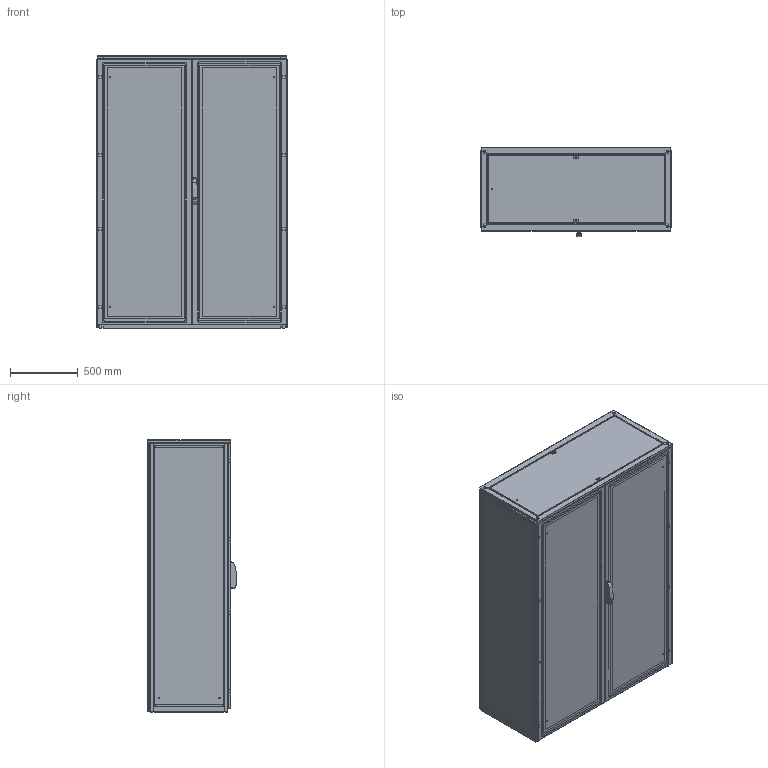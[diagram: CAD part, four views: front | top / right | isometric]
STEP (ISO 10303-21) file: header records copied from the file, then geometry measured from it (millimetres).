
FILE_DESCRIPTION(/* description */ ('STEP AP214'),/* implementation_level */ '2;1');
FILE_NAME(/* name */ 'ENUX142006PR -LOD350',/* time_stamp */ '2025-10-06T10:07:59+02:00',/* author */ ('License CC BY-ND 4.0'),/* organization */ ('CADENAS'),/* preprocessor_version */ 'ST-DEVELOPER v19.3',/* originating_system */ 'PARTsolutions',/* authorisation */ ' ');
FILE_SCHEMA (('AP242_MANAGED_MODEL_BASED_3D_ENGINEERING_MIM_LF { 1 0 10303 442 3 1 4 }','AUTOMOTIVE_DESIGN {1 0 10303 214 3 1 1}'));
Length unit declared in the file: millimetre
Products named in the file (11): ENUX142006PR  -LOD350; ENUX142006PR  -LOD3501; ENUX142006PR  -LOD3507; ENUX142006PR  -LOD3502; ENUX142006PR  -LOD35011; ENUX142006PR  -LOD3503; ENUX142006PR  -LOD3508; ENUX142006PR  -LOD3505; ENUX142006PR  -LOD3504; ENUX142006PR  -LOD35010; ENUX142006PR  -LOD3509
Assembly tree (19 placements, depth 2):
  ENUX142006PR  -LOD350
    ENUX142006PR  -LOD3501
    ENUX142006PR  -LOD3507  x2
    ENUX142006PR  -LOD3502
    ENUX142006PR  -LOD35011
    ENUX142006PR  -LOD3503
    ENUX142006PR  -LOD3508
    ENUX142006PR  -LOD3505
    ENUX142006PR  -LOD3504
    ENUX142006PR  -LOD35010  x4
    ENUX142006PR  -LOD3509  x6
Bounding box: 1412 x 657 x 2008.5 mm (x, y, z)
Volume: 33216699 mm3; surface area: 27844997.5 mm2
Topology: 19 solids, 26 shells, 1608 faces, 4345 edges, 2844 vertices
Faces by surface type: plane 974, cylinder 584, torus 30, cone 12, sphere 8
Full cylindrical faces by diameter (mm): 6 x15, 9 x13, 12 x4, 14 x2, 17 x2, 28 x2
Entity records: 36598 total; most frequent: CARTESIAN_POINT 6697, DIRECTION 6215, ORIENTED_EDGE 6118, EDGE_CURVE 3059, AXIS2_PLACEMENT_3D 2073, LINE 2069, VECTOR 2069, VERTEX_POINT 2022
